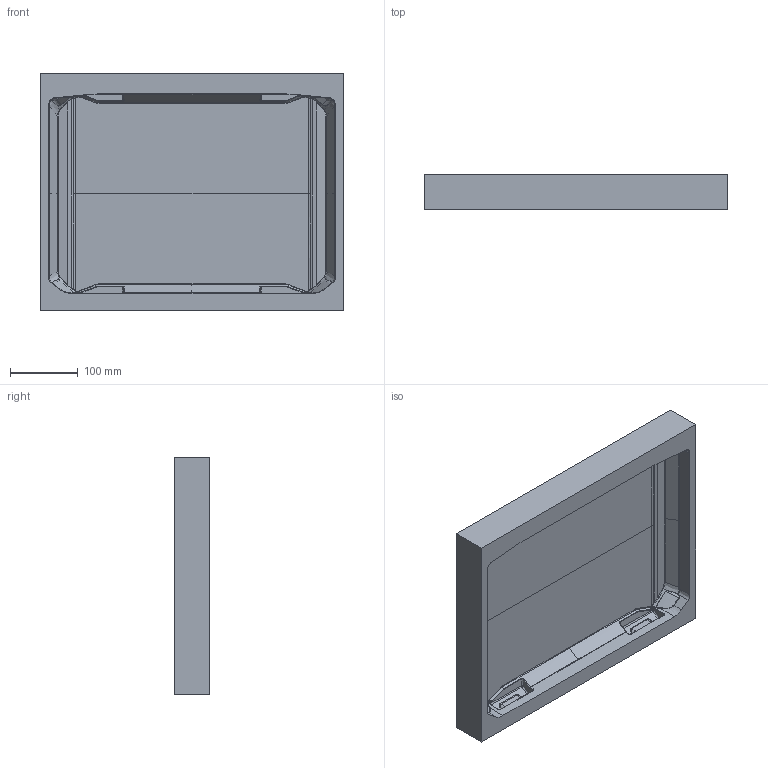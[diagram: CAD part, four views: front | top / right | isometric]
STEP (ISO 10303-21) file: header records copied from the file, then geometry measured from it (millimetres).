
FILE_DESCRIPTION (( 'STEP AP214' ), '1' );
FILE_NAME ('V300 PP TOP TUB 10-2-2023.STEP', '2023-10-03T23:29:00', ( '' ), ( '' ), 'SwSTEP 2.0', 'SolidWorks 2021', '' );
FILE_SCHEMA (( 'AUTOMOTIVE_DESIGN' ));
Length unit declared in the file: millimetre
Products named in the file (1): V300 PP TOP TUB 10-2-2023
Bounding box: 447.58 x 52.48 x 350.46 mm (x, y, z)
Volume: 3349267.8 mm3; surface area: 450090.4 mm2
Topology: 1 solids, 1 shells, 493 faces, 1168 edges, 662 vertices
Faces by surface type: bspline 433, plane 60
Entity records: 19244 total; most frequent: CARTESIAN_POINT 11964, ORIENTED_EDGE 2304, EDGE_CURVE 1152, VERTEX_POINT 662, B_SPLINE_CURVE_WITH_KNOTS 509, EDGE_LOOP 494, ADVANCED_FACE 493, FACE_OUTER_BOUND 493
